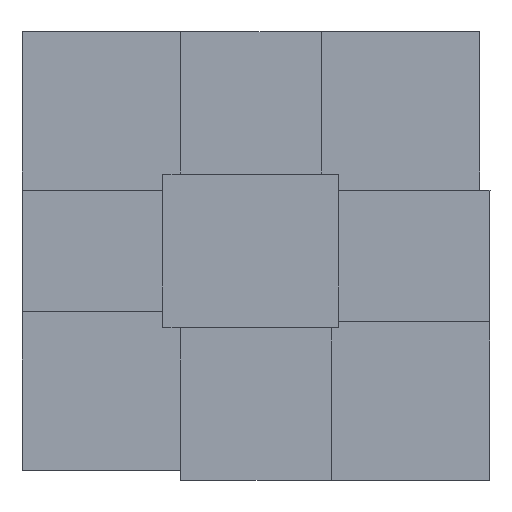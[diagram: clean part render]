
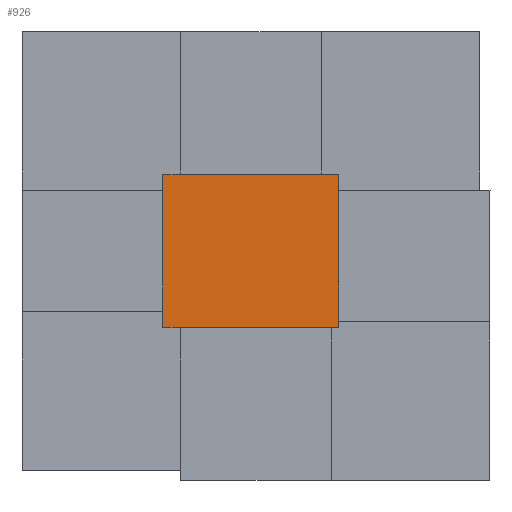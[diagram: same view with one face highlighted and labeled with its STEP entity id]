
A CAD part, left-side view. The second image highlights one B-rep face of the part: STEP entity #926.
In plain terms, the highlighted planar face has unit normal (-1, 0, 0).
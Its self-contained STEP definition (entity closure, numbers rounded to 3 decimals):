
#808=CARTESIAN_POINT('Line Origine',(0.,0.,48.)) ;
#812=CARTESIAN_POINT('Vertex',(0.,0.,0.)) ;
#814=CARTESIAN_POINT('Vertex',(0.,0.,96.)) ;
#883=CARTESIAN_POINT('Vertex',(0.,111.,0.)) ;
#886=CARTESIAN_POINT('Line Origine',(0.,111.,48.)) ;
#890=CARTESIAN_POINT('Vertex',(0.,111.,96.)) ;
#905=CARTESIAN_POINT('Axis2P3D Location',(0.,111.,0.)) ;
#910=CARTESIAN_POINT('Line Origine',(0.,55.5,0.)) ;
#915=CARTESIAN_POINT('Line Origine',(0.,55.5,96.)) ;
#809=DIRECTION('Vector Direction',(0.,0.,1.)) ;
#887=DIRECTION('Vector Direction',(0.,0.,1.)) ;
#906=DIRECTION('Axis2P3D Direction',(-1.,0.,0.)) ;
#907=DIRECTION('Axis2P3D XDirection',(0.,-1.,0.)) ;
#911=DIRECTION('Vector Direction',(0.,-1.,0.)) ;
#916=DIRECTION('Vector Direction',(0.,-1.,0.)) ;
#908=AXIS2_PLACEMENT_3D('Plane Axis2P3D',#905,#906,#907) ;
#921=ORIENTED_EDGE('',*,*,#892,.F.) ;
#922=ORIENTED_EDGE('',*,*,#914,.T.) ;
#923=ORIENTED_EDGE('',*,*,#816,.T.) ;
#924=ORIENTED_EDGE('',*,*,#919,.F.) ;
#810=VECTOR('Line Direction',#809,1.) ;
#888=VECTOR('Line Direction',#887,1.) ;
#912=VECTOR('Line Direction',#911,1.) ;
#917=VECTOR('Line Direction',#916,1.) ;
#926=ADVANCED_FACE('Body.2-molde-superior',(#925),#909,.T.) ;
#816=EDGE_CURVE('',#813,#815,#811,.T.) ;
#892=EDGE_CURVE('',#884,#891,#889,.T.) ;
#914=EDGE_CURVE('',#884,#813,#913,.T.) ;
#919=EDGE_CURVE('',#891,#815,#918,.T.) ;
#920=EDGE_LOOP('',(#921,#922,#923,#924)) ;
#925=FACE_OUTER_BOUND('',#920,.T.) ;
#811=LINE('Line',#808,#810) ;
#889=LINE('Line',#886,#888) ;
#913=LINE('Line',#910,#912) ;
#918=LINE('Line',#915,#917) ;
#909=PLANE('',#908) ;
#813=VERTEX_POINT('',#812) ;
#815=VERTEX_POINT('',#814) ;
#884=VERTEX_POINT('',#883) ;
#891=VERTEX_POINT('',#890) ;
